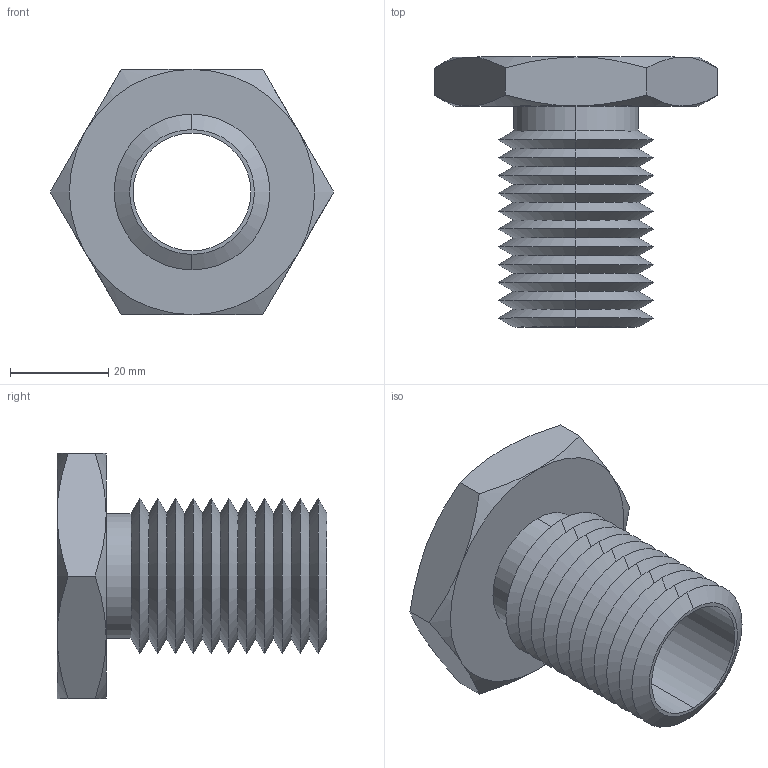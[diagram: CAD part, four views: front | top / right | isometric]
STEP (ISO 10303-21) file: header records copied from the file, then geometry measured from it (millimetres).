
FILE_DESCRIPTION (( 'STEP AP203' ), '1' );
FILE_NAME ('63302.W5125_M24x3.step', '2013-12-08T11:59:01', ( 'User' ), ( '' ), 'SwSTEP 2.0', 'SolidWorks 2009', '' );
FILE_SCHEMA (( 'CONFIG_CONTROL_DESIGN' ));
Length unit declared in the file: millimetre
Products named in the file (1): 63302.W5125_M24x3
Bounding box: 57.73 x 55 x 50 mm (x, y, z)
Volume: 24478.5 mm3; surface area: 16563.1 mm2
Topology: 1 solids, 1 shells, 71 faces, 146 edges, 78 vertices
Faces by surface type: cone 58, plane 9, cylinder 4
Entity records: 2039 total; most frequent: CARTESIAN_POINT 480, DIRECTION 332, ORIENTED_EDGE 292, EDGE_CURVE 146, AXIS2_PLACEMENT_3D 138, VERTEX_POINT 78, EDGE_LOOP 74, ADVANCED_FACE 71
